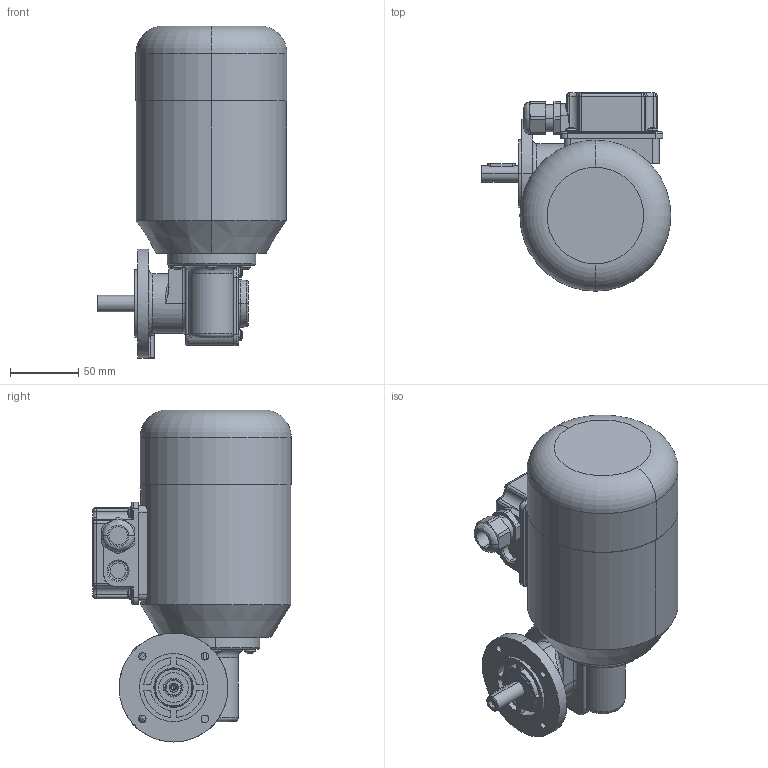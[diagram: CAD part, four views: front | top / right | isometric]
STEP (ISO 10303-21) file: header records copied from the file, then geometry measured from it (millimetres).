
FILE_DESCRIPTION (( 'STEP AP214' ), '1' );
FILE_NAME ('SN5FR_90W_Drehstrom-Motor_A.STEP', '2022-03-14T15:38:54', ( '' ), ( '' ), 'SwSTEP 2.0', 'SolidWorks 2019', '' );
FILE_SCHEMA (( 'AUTOMOTIVE_DESIGN' ));
Length unit declared in the file: millimetre
Products named in the file (10): pan head cross recess screw_din_DIN EN ISO 7045 - M4 x 16 - Z - 16C; 05FR-D-001_3D_Export; 05FR-G-001_3D_Export; 05F-W-002_3D_Export; NBR_WDR_12x28x7; SN5FR_90W_Drehstrom-Motor_A; SN5FR_3D_Export_Standard 05F-W-002; pan head cross recess screw_din_DIN EN ISO 7045 - M4 x 12 - Z - 12C; PF_A4x4x20; 05-M-150 I 90W_1400Upm
Assembly tree (14 placements, depth 3):
  SN5FR_90W_Drehstrom-Motor_A
    SN5FR_3D_Export_Standard 05F-W-002
      05FR-G-001_3D_Export
      05FR-D-001_3D_Export
      05F-W-002_3D_Export
      NBR_WDR_12x28x7
      PF_A4x4x20
      pan head cross recess screw_din_DIN EN ISO 7045 - M4 x 16 - Z - 16C  x3
      pan head cross recess screw_din_DIN EN ISO 7045 - M4 x 12 - Z - 12C  x4
    05-M-150 I 90W_1400Upm
Bounding box: 139.5 x 145.9 x 244 mm (x, y, z)
Volume: 1994016.9 mm3; surface area: 157595.8 mm2
Topology: 15 solids, 15 shells, 970 faces, 2463 edges, 1542 vertices
Faces by surface type: plane 336, cylinder 269, cone 144, torus 122, bspline 59, sphere 40
Entity records: 27333 total; most frequent: CARTESIAN_POINT 7488, DIRECTION 4158, ORIENTED_EDGE 4028, EDGE_CURVE 2014, AXIS2_PLACEMENT_3D 1675, VERTEX_POINT 1287, CIRCLE 916, EDGE_LOOP 879
